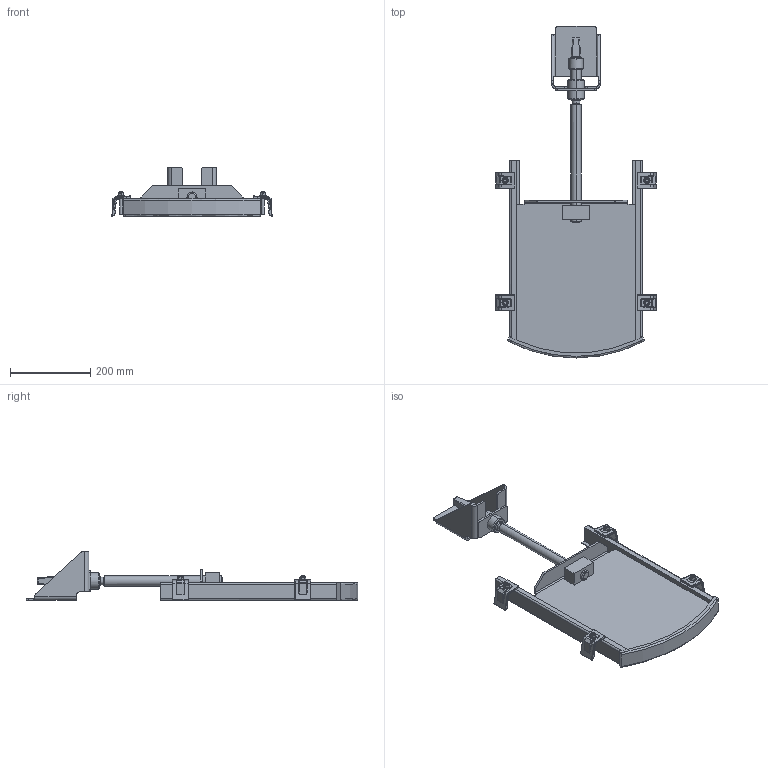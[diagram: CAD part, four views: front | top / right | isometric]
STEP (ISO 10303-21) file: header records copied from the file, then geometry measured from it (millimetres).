
FILE_DESCRIPTION (( 'STEP AP214' ), '1' );
FILE_NAME ('LW 250 gerad betoniert.STEP', '2022-05-18T13:54:02', ( '' ), ( '' ), 'SwSTEP 2.0', 'SolidWorks 2021', '' );
FILE_SCHEMA (( 'AUTOMOTIVE_DESIGN' ));
Length unit declared in the file: millimetre
Products named in the file (1): LW 250 gerad betoniert
Bounding box: 399.57 x 825 x 121 mm (x, y, z)
Volume: 2249400.1 mm3; surface area: 623307.7 mm2
Topology: 1 solids, 1 shells, 752 faces, 1754 edges, 980 vertices
Faces by surface type: cylinder 289, plane 231, cone 62, sphere 60, torus 56, bspline 54
Entity records: 31282 total; most frequent: CARTESIAN_POINT 6557, DIRECTION 3554, ORIENTED_EDGE 3388, EDGE_CURVE 1694, AXIS2_PLACEMENT_3D 1409, VERTEX_POINT 972, EDGE_LOOP 790, UNCERTAINTY_MEASURE_WITH_UNIT 755
